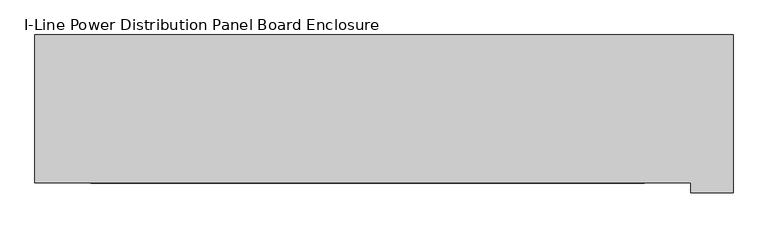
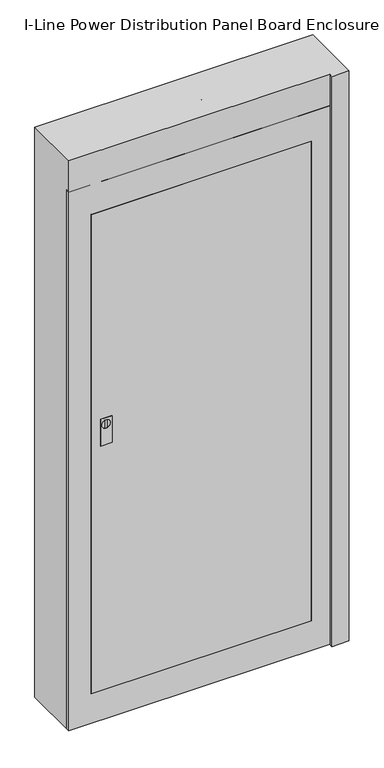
"""IFC4 building model written with IfcOpenShell, lengths in millimetres: proxy geometry, I-Line_Power_Distribution_Panel_Board_Enclosure_800Amps_BIM_Model : I-Line Power Distribution Panel Board Enclosure."""

import ifcopenshell
import ifcopenshell.guid

model = None  # the IFC model being written
_history = None  # IfcOwnerHistory: only IFC2X3 demands one
_inside = {}  # id of a spatial element -> (the spatial element, [elements in it])
_under = {}  # id of a project, library or spatial element -> (it, [spatial elements below it])
_declared = {}  # id of a project -> (the project, [libraries it declares])
_typed = {}  # id of a type object -> (the type object, [elements of that type])
_made_of = {}  # id of a material, layer set ... -> (it, [elements and type objects made of it])


def new_model(schema):
    """Start an empty IFC model of exactly this schema.

    Asked for "IFC4X3", IfcOpenShell would pick the latest addendum, in which some entities
    have other attributes; the version numbers below select the first issue.
    IFC2X3 requires an IfcOwnerHistory on every rooted entity: one is made here for all.
    """
    global model, _history
    if schema == "IFC4X3":
        model = ifcopenshell.file(schema_version=(4, 3, 0, 0))
    else:
        model = ifcopenshell.file(schema=schema)
    _inside.clear()
    _under.clear()
    _declared.clear()
    _typed.clear()
    _made_of.clear()
    _history = None
    if model.schema == "IFC2X3":
        org = make("IfcOrganization", Name="unknown")
        user = make(
            "IfcPersonAndOrganization",
            ThePerson=make("IfcPerson", FamilyName="unknown"),
            TheOrganization=org,
        )
        app = make(
            "IfcApplication",
            ApplicationDeveloper=org,
            Version="unknown",
            ApplicationFullName="unknown",
            ApplicationIdentifier="unknown",
        )
        _history = make(
            "IfcOwnerHistory",
            OwningUser=user,
            OwningApplication=app,
            ChangeAction="ADDED",
            CreationDate=0,
        )
    return model


def make(cls, **values):
    """One entity of the class cls with the attributes given. An attribute that is None is left unset."""
    return model.create_entity(
        cls, **{name: value for name, value in values.items() if value is not None}
    )


def rooted(cls, **values):
    """An entity with a GlobalId (a new one), such as an element, a storey or a relation."""
    return make(cls, GlobalId=ifcopenshell.guid.new(), OwnerHistory=_history, **values)


def si_unit(unit_type, name, prefix=None):
    """IfcSIUnit, for example si_unit("LENGTHUNIT", "METRE", prefix="MILLI")."""
    return make("IfcSIUnit", UnitType=unit_type, Prefix=prefix, Name=name)


def assignment(units):
    """IfcUnitAssignment: the units of a project."""
    return None if units is None else make("IfcUnitAssignment", Units=units)


def point(xyz):
    """IfcCartesianPoint."""
    return None if xyz is None else make("IfcCartesianPoint", Coordinates=xyz)


def direction(xyz):
    """IfcDirection."""
    return None if xyz is None else make("IfcDirection", DirectionRatios=xyz)


def frame(location, z_axis=None, x_axis=None):
    """IfcAxis2Placement3D, a coordinate frame: its origin and axes. An axis left out is left unset."""
    return make(
        "IfcAxis2Placement3D",
        Location=point(location),
        Axis=direction(z_axis),
        RefDirection=direction(x_axis),
    )


def frame_2d(location, x_axis=None):
    """IfcAxis2Placement2D, a coordinate frame in the plane: its origin and x axis."""
    return make(
        "IfcAxis2Placement2D", Location=point(location), RefDirection=direction(x_axis)
    )


def origin():
    """The frame at (0, 0, 0) with its axes left unset."""
    return frame((0.0, 0.0, 0.0))


def origin_with_axes():
    """The frame at (0, 0, 0) with the z axis (0, 0, 1) and the x axis (1, 0, 0) written out."""
    return frame((0.0, 0.0, 0.0), z_axis=(0.0, 0.0, 1.0), x_axis=(1.0, 0.0, 0.0))


def place(relative_to, where):
    """IfcLocalPlacement: puts the frame where relative to a parent placement (None: the world)."""
    return make(
        "IfcLocalPlacement", PlacementRelTo=relative_to, RelativePlacement=where
    )


def context(
    kind, dimensions, precision=None, world=None, true_north=None, identifier=None
):
    """IfcGeometricRepresentationContext, for example the 3D "Model" context."""
    return make(
        "IfcGeometricRepresentationContext",
        ContextIdentifier=identifier,
        ContextType=kind,
        CoordinateSpaceDimension=dimensions,
        Precision=precision,
        WorldCoordinateSystem=world,
        TrueNorth=true_north,
    )


def project(units=None, contexts=None):
    """IfcProject with its units and contexts."""
    return rooted(
        "IfcProject",
        Name="project",
        RepresentationContexts=contexts,
        UnitsInContext=assignment(units),
    )


def spatial(cls, under=None, at=None, **own):
    """A site, building, storey or space (cls), placed at a placement, below another one or the project."""
    s = rooted(cls, ObjectPlacement=at, **own)
    if under is not None:
        _under.setdefault(under.id(), (under, []))[1].append(s)
    return s


def polyline(points):
    """IfcPolyline through the points."""
    return make("IfcPolyline", Points=[point(p) for p in points])


def circle_curve(where, radius):
    """IfcCircle in the frame where."""
    return make("IfcCircle", Position=where, Radius=radius)


def trimmed(basis, trim1, trim2, sense, master):
    """IfcTrimmedCurve: the piece of a basis curve between two trims."""
    return make(
        "IfcTrimmedCurve",
        BasisCurve=basis,
        Trim1=trim1,
        Trim2=trim2,
        SenseAgreement=sense,
        MasterRepresentation=master,
    )


def segment(curve, same_sense, transition):
    """IfcCompositeCurveSegment."""
    return make(
        "IfcCompositeCurveSegment",
        Transition=transition,
        SameSense=same_sense,
        ParentCurve=curve,
    )


def composite_curve(segments, self_intersect=None):
    """IfcCompositeCurve: segments joined end to end."""
    return make("IfcCompositeCurve", Segments=segments, SelfIntersect=self_intersect)


def outline(outer, holes=None, kind="AREA"):
    """IfcArbitraryClosedProfileDef: a profile drawn as a closed curve; with holes, ...WithVoids."""
    if holes is None:
        return make("IfcArbitraryClosedProfileDef", ProfileType=kind, OuterCurve=outer)
    return make(
        "IfcArbitraryProfileDefWithVoids",
        ProfileType=kind,
        OuterCurve=outer,
        InnerCurves=holes,
    )


def extrude(swept, where, along, depth):
    """IfcExtrudedAreaSolid: the profile swept, set in the frame where, extruded along a direction by depth."""
    return make(
        "IfcExtrudedAreaSolid",
        SweptArea=swept,
        Position=where,
        ExtrudedDirection=direction(along),
        Depth=depth,
    )


def shape(context_of_items, identifier, shape_type, items):
    """IfcShapeRepresentation: the items that make up one representation, for example the "Body"."""
    return make(
        "IfcShapeRepresentation",
        ContextOfItems=context_of_items,
        RepresentationIdentifier=identifier,
        RepresentationType=shape_type,
        Items=items,
    )


def source(mapping_origin, context_of_items, identifier, shape_type, items):
    """IfcRepresentationMap: a shape defined once, which mapped items show again and again."""
    return make(
        "IfcRepresentationMap",
        MappingOrigin=mapping_origin,
        MappedRepresentation=shape(context_of_items, identifier, shape_type, items),
    )


def transform(
    local_origin,
    x_axis=None,
    y_axis=None,
    z_axis=None,
    scale=None,
    scale2=None,
    scale3=None,
    uniform=True,
):
    """IfcCartesianTransformationOperator3D, or its non-uniform kind. x_axis, y_axis, z_axis: its Axis1, 2, 3."""
    if uniform:
        return make(
            "IfcCartesianTransformationOperator3D",
            Axis1=direction(x_axis),
            Axis2=direction(y_axis),
            LocalOrigin=point(local_origin),
            Scale=scale,
            Axis3=direction(z_axis),
        )
    return make(
        "IfcCartesianTransformationOperator3DnonUniform",
        Axis1=direction(x_axis),
        Axis2=direction(y_axis),
        LocalOrigin=point(local_origin),
        Scale=scale,
        Axis3=direction(z_axis),
        Scale2=scale2,
        Scale3=scale3,
    )


def mapped(mapping_source, mapping_target):
    """IfcMappedItem: shows the shape of a source again, moved by a transform."""
    return make(
        "IfcMappedItem", MappingSource=mapping_source, MappingTarget=mapping_target
    )


def made_of(thing, what):
    """Note that an element or type object is made of a material, layer set ...; save() writes the relation."""
    if what is not None:
        _made_of.setdefault(what.id(), (what, []))[1].append(thing)
    return thing


def element(
    cls,
    number,
    at=None,
    inside=None,
    cuts=None,
    type_object=None,
    material=None,
    context=None,
    identifier="Body",
    shape_type=None,
    held_by="IfcProductDefinitionShape",
    body=None,
    shapes=None,
    **own,
):
    """One element of the class cls, such as IfcWall. Its Tag is "e" and its number.

    at: its placement. inside: the storey or other place that contains it. cuts: it is an
    opening in that element (IfcRelVoidsElement). A single representation is given by context,
    identifier, shape_type and body (its items); several are given by shapes. held_by: the class
    of the entity that holds the representations. save() writes the other relations.
    """
    e = rooted(cls, Tag="e%d" % number, ObjectPlacement=at, **own)
    if body is not None:
        shapes = [shape(context, identifier, shape_type, body)]
    if shapes is not None:
        e.Representation = make(held_by, Representations=shapes)
    if inside is not None:
        _inside.setdefault(inside.id(), (inside, []))[1].append(e)
    if cuts is not None:
        rooted(
            "IfcRelVoidsElement", RelatingBuildingElement=cuts, RelatedOpeningElement=e
        )
    if type_object is not None:
        _typed.setdefault(type_object.id(), (type_object, []))[1].append(e)
    return made_of(e, material)


def aggregate(whole, parts):
    """IfcRelAggregates: a whole, such as a stair, and the parts it consists of."""
    return rooted("IfcRelAggregates", RelatingObject=whole, RelatedObjects=parts)


def save(model, path):
    """Write the relations noted so far, then the file.

    IfcRelAggregates (storeys below a building ...), IfcRelContainedInSpatialStructure (elements
    in a storey), IfcRelDefinesByType, IfcRelAssociatesMaterial and IfcRelDeclares: one each for
    every whole, place, type object, material and project.
    """
    for whole, parts in _under.values():
        aggregate(whole, parts)
    for where, things in _inside.values():
        rooted(
            "IfcRelContainedInSpatialStructure",
            RelatedElements=things,
            RelatingStructure=where,
        )
    for kind, things in _typed.values():
        rooted("IfcRelDefinesByType", RelatedObjects=things, RelatingType=kind)
    for what, things in _made_of.values():
        rooted("IfcRelAssociatesMaterial", RelatedObjects=things, RelatingMaterial=what)
    for by, libraries in _declared.values():
        rooted("IfcRelDeclares", RelatingContext=by, RelatedDefinitions=libraries)
    model.write(path)


def i_line_power_distribution_panel_board_enclosure_2e56ea56(model_context):
    return source(origin(), model_context, "Body", "SweptSolid", [
        extrude(outline(polyline([(29.9355959, 20.4466569), (29.9355959, -19.5533431), (-30.0644041, -19.5533431), (-30.0644041, 20.4466569), (29.9355959, 20.4466569)])), frame((0.0, 0.0, 2309.0), z_axis=(0.0, 0.0, 1.0), x_axis=(1.0, 0.0, 0.0)), (0.0, 0.0, 1.0), 1.0),
        extrude(outline(polyline([(1220.9933328, -368.620244), (1220.9933328, -412.6115289), (1112.0, -412.6115289), (1112.0, -368.620244), (1220.9933328, -368.620244)]), holes=[composite_curve([segment(trimmed(circle_curve(frame_2d((1194.7298791, -390.6240938)), 16.4146586), [point((1194.7298791, -407.0387523))], [point((1194.7298791, -374.2094352))], True, "CARTESIAN"), True, "CONTINUOUS"), segment(trimmed(circle_curve(frame_2d((1194.7298791, -390.6240938)), 16.4146586), [point((1194.7298791, -374.2094352))], [point((1194.7298791, -407.0387523))], True, "CARTESIAN"), True, "CONTINUOUS")], self_intersect=False)]), frame((0.0, -106.0, 0.0), z_axis=(0.0, 1.0, 0.0), x_axis=(0.0, 0.0, 1.0)), (0.0, 0.0, 1.0), 1.0),
        extrude(outline(composite_curve([segment(polyline([(1209.9614329, -394.5636118), (1179.4669633, -394.5636118)]), True, "CONTINUOUS"), segment(trimmed(circle_curve(frame_2d((1213.1619767, -390.6240938)), 33.9245299), [point((1179.4669633, -394.5636118))], [point((1179.4669633, -386.6845757))], False, "CARTESIAN"), True, "CONTINUOUS"), segment(polyline([(1179.4669633, -386.6845757), (1209.9614329, -386.6845757)]), True, "CONTINUOUS"), segment(trimmed(circle_curve(frame_2d((1194.1423953, -390.6240938)), 16.3022009), [point((1209.9614329, -386.6845757))], [point((1209.9614329, -394.5636118))], False, "CARTESIAN"), True, "CONTINUOUS")], self_intersect=False)), frame((0.0, -106.0, 0.0), z_axis=(0.0, 1.0, 0.0), x_axis=(0.0, 0.0, 1.0)), (0.0, 0.0, 1.0), 1.0),
        extrude(outline(polyline([(2184.0, 468.5), (2184.0, -533.5), (0.0, -533.5), (0.0, 468.5), (2184.0, 468.5)]), holes=[polyline([(2064.0, 397.5), (120.0, 397.5), (120.0, -448.5), (2064.0, -448.5), (2064.0, 397.5)])]), frame((0.0, -105.0, 0.0), z_axis=(0.0, 1.0, 0.0), x_axis=(0.0, 0.0, 1.0)), (0.0, 0.0, 1.0), 15.0),
        extrude(outline(polyline([(533.5, 120.5), (533.5, -95.5), (533.5, -120.5), (468.5, -120.5), (468.5, -105.5), (-533.5, -105.5), (-533.5, 120.5), (533.5, 120.5)])), origin_with_axes(), (0.0, 0.0, 1.0), 2311.0),
        extrude(outline(polyline([(397.5, -106.0), (-448.5, -106.0), (-448.5, -105.0), (397.5, -105.0), (397.5, -106.0)])), frame((0.0, 0.0, 120.0), z_axis=(0.0, 0.0, 1.0), x_axis=(1.0, 0.0, 0.0)), (0.0, 0.0, 1.0), 1944.0),
    ])


if __name__ == "__main__":
    model = new_model("IFC4")
    model_context = context("Model", 3, world=origin())
    ifc_project = project(units=[si_unit("LENGTHUNIT", "METRE", prefix="MILLI")], contexts=[model_context])
    site = spatial("IfcSite", under=ifc_project)
    building = spatial("IfcBuilding", under=site)
    placement = place(None, origin())
    i_line_power_distribution_panel_board_enclosure_shape = i_line_power_distribution_panel_board_enclosure_2e56ea56(model_context)
    element("IfcBuildingElementProxy", 1, Name="I-Line_Power_Distribution_Panel_Board_Enclosure_800Amps_BIM_Model : I-Line Power Distribution Panel Board Enclosure", ObjectType="I-Line_Power_Distribution_Panel_Board_Enclosure_800Amps_BIM_Model : I-Line Power Distribution Panel Board Enclosure", at=placement, inside=building, context=model_context, shape_type="MappedRepresentation", body=[
        mapped(i_line_power_distribution_panel_board_enclosure_shape, transform((0.0, 0.0, 0.0), x_axis=(1.0, 0.0, 0.0), y_axis=(0.0, 1.0, 0.0), z_axis=(0.0, 0.0, 1.0))),
    ])
    save(model, "model.ifc")
